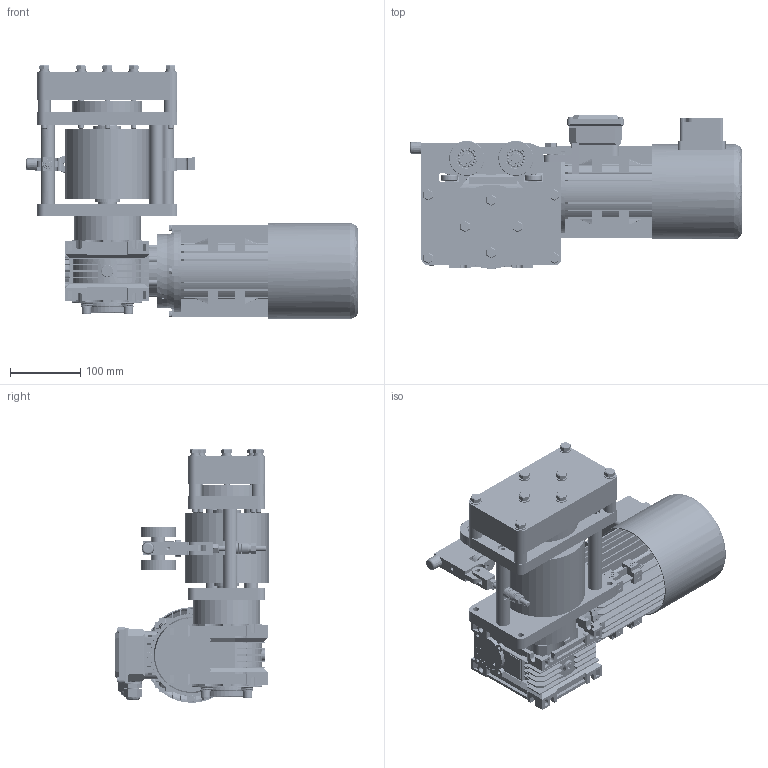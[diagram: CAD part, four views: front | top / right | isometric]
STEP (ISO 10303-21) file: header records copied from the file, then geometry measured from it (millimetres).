
FILE_DESCRIPTION (( 'STEP AP203' ), '1' );
FILE_NAME ('铝轨电驱.STEP', '2021-04-26T07:02:54', ( '' ), ( '' ), 'SwSTEP 2.0', 'SolidWorks 2017', '' );
FILE_SCHEMA (( 'CONFIG_CONTROL_DESIGN' ));
Length unit declared in the file: millimetre
Products named in the file (54): 铝轨电驱; 耜醱蟀諉啣1; deep groove ball bearings gb_Rolling bearings 6004 GB 276-94; 苤陬蟀諉璃; 蚾饜极1-NMRV50-14楊擘熬厒ん; 饜笭啣10mm; 陬謫粣杶; 蟀諉粣1; 裔啣; hexagon nuts grade c gb_GB_FASTENER_NUT_SNC1 M8-N; plain washers--product grade c gb_GB_FASTENER_WASHER_SMWC 6; 饜笭啣2mm; hex head bolts-full thread grade c gb_GB_FASTENER_BOLT_HHBFTC M6X20-N; hex head bolts-full thread grade c gb_GB_FASTENER_BOLT_HHBFTC M10X35-N; 蹟裝M8x85; circlips for shaft--type a large gb_GB_CONNECTING_PIECE_RING_RRA 15; 錨璃1-0.25kw曹け覃厒萇儂; hexagon socket head cap screws gb_GB_FASTENER_SCREWS_HSHCS M8X20-C; deep groove ball bearings gb_Rolling bearings 626 GB 276-94; 萇儂隅弇粣; 評倛菜え; 陬謫殤; 苤陬陬謫1; 蟀諉粣2; 驱动轴; plain washers--product grade c gb_GB_FASTENER_WASHER_SMWC 8; 饜笭啣4mm; 626粣創婦蝶謫; 菜え2; 饜笭啣6mm; spring pin slotted light duty1 gb_GB_PARALLEL_PINS_TYPE7 8X18; 装配体2-0.25kw-RV50-变频调速电动机; deep groove ball bearings gb_Rolling bearings 6002 GB 276-94; spring lock washers--normal type gb_GB_FASTENER_WASHER_SW 8; 粣杶2; spring pin slotted light duty1 gb_GB_PARALLEL_PINS_TYPE7 6X30; 耜醱蟀諉啣2; spring lock washers--normal type gb_GB_FASTENER_WASHER_SW 6; 砎蝶輸; 褽苤陬陬謫粣1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
Assembly tree (144 placements, depth 4):
  铝轨电驱
    陬謫殤
    褽苤陬陬謫粣1  x2
    陬謫粣杶  x4
    deep groove ball bearings gb_Rolling bearings 6002 GB 276-94  x4
    circlips for shaft--type a large gb_GB_CONNECTING_PIECE_RING_RRA 15  x4
    苤陬陬謫1  x4
    plain washers--product grade c gb_GB_FASTENER_WASHER_SMWC 6  x5
    deep groove ball bearings gb_Rolling bearings 626 GB 276-94  x2
    626粣創婦蝶謫  x2
    spring pin slotted light duty1 gb_GB_PARALLEL_PINS_TYPE7 6X30  x2
    hex head bolts-full thread grade c gb_GB_FASTENER_BOLT_HHBFTC M10X35-N
    苤陬蟀諉璃
    spring pin slotted light duty1 gb_GB_PARALLEL_PINS_TYPE7 8X18
    蟀諉芛
    蟀諉粣1  x2
    蹟裝M8x85
    蟀諉粣2
    hexagon socket head cap screws gb_GB_FASTENER_SCREWS_HSHCS M8X20-C  x10
    耜醱蟀諉啣1
    耜醱蟀諉啣2
    deep groove ball bearings gb_Rolling bearings 6004 GB 276-94  x2
    驱动轴
    粣杶2
    plain parallel keys_GB_CONNECTING_PIECE_KEYS_CSK 8X90
    plain parallel keys_GB_CONNECTING_PIECE_KEYS_CSK 6X56
    菜え2
    hex head bolts-full thread grade c gb_GB_FASTENER_BOLT_HHBFTC M6X20-N
    spring lock washers--normal type gb_GB_FASTENER_WASHER_SW 6
    裔啣
    砎蝶輸  x4
    饜笭啣10mm  x2
    饜笭啣6mm  x2
    饜笭啣4mm
    饜笭啣2mm  x2
    spring lock washers--normal type gb_GB_FASTENER_WASHER_SW 8  x9
    plain washers--product grade c gb_GB_FASTENER_WASHER_SMWC 8  x11
    蹟邡M8x85  x8
    萇儂隅弇粣
    hexagon socket head cap screws gb_GB_FASTENER_SCREWS_HSHCS M8X35-C  x4
    婦蝶謫
    hexagon socket head cap screws gb_GB_FASTENER_SCREWS_HSHCS M8X30-C  x4
    hexagon nuts grade c gb_GB_FASTENER_NUT_SNC1 M8-N  x2
    評倛菜え  x14
    苤陬砦結
    装配体2-0.25kw-RV50-变频调速电动机
      錨璃1-0.25kw曹け覃厒萇儂
      蚾饜极1-NMRV50-14楊擘熬厒ん
        錨璃2-NMRV50熬厒ん褲极
        錨璃-14B熬厒ん楊擘
      零件2-NMRV50减速器塑料端盖
      零件16-M8平垫圈  x4
      spring lock washers--normal type gb_GB_FASTENER_WASHER_SW 8  x4
      錨璃7-M8X30囀鞠褒蹟邡  x4
Bounding box: 473.5 x 218.79 x 361.4 mm (x, y, z)
Volume: 6783934.4 mm3; surface area: 1535284.2 mm2
Topology: 163 solids, 165 shells, 7230 faces, 20291 edges, 13219 vertices
Faces by surface type: plane 3215, cylinder 2103, bspline 849, torus 486, cone 345, sphere 232
Entity records: 217813 total; most frequent: CARTESIAN_POINT 79322, ORIENTED_EDGE 28574, DIRECTION 24585, EDGE_CURVE 14287, VERTEX_POINT 9392, VECTOR 8405, LINE 8405, AXIS2_PLACEMENT_3D 8090
